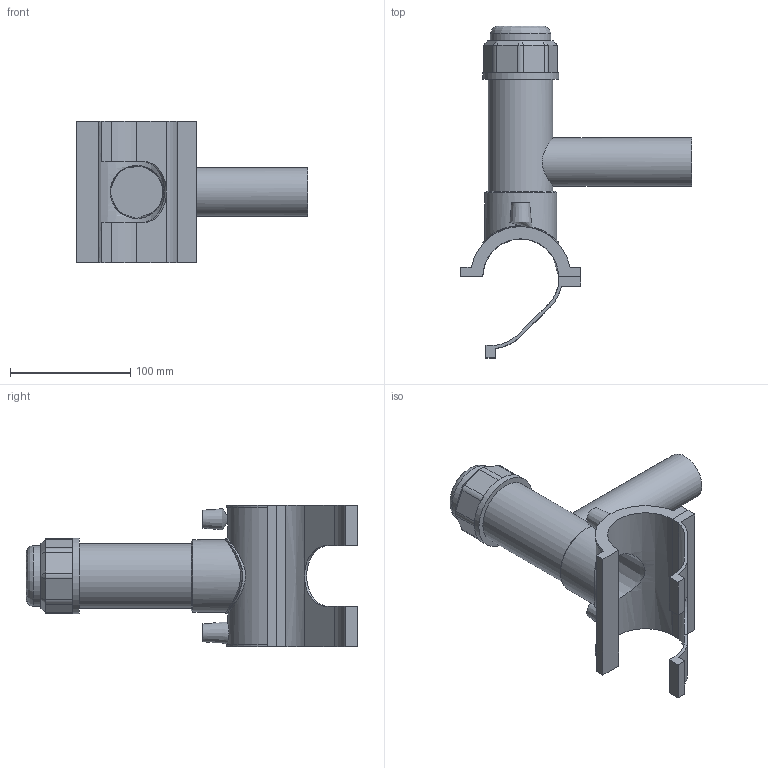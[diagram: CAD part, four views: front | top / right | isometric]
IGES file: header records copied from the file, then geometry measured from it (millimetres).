
Global section: file name: 496304063040.ipt; native system: Autodesk Inventor 2015; preprocessor: unknown; author: KIM; date: 20190124.130641; units: millimetre
Bounding box: 192 x 275.78 x 118 mm (x, y, z)
Volume: 449757.6 mm3; surface area: 137680.2 mm2
Topology: 3 solids, 3 shells, 102 faces, 239 edges, 156 vertices
Faces by surface type: plane 57, cylinder 23, cone 11, revolution 10, bspline 1
Full cylindrical faces by diameter (mm): 4 x2, 40 x1, 50.4 x1, 53.55 x1, 59.85 x1, 63 x2
